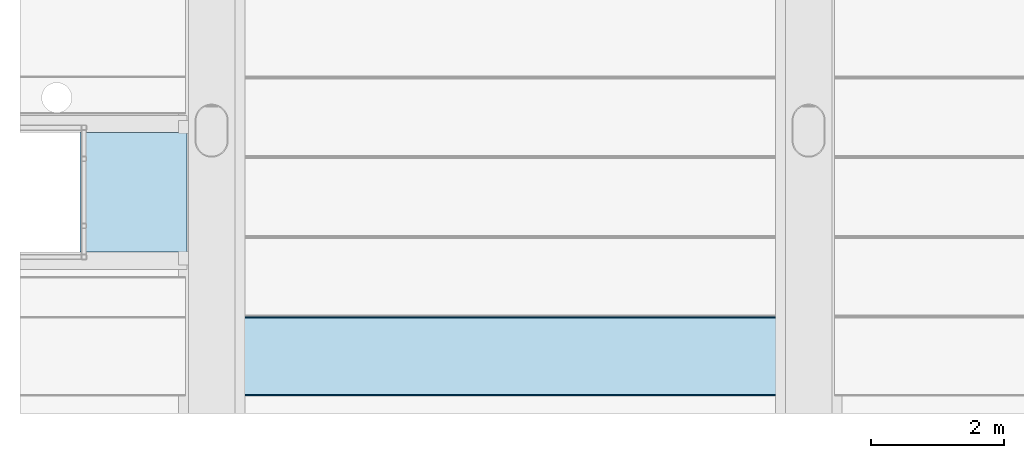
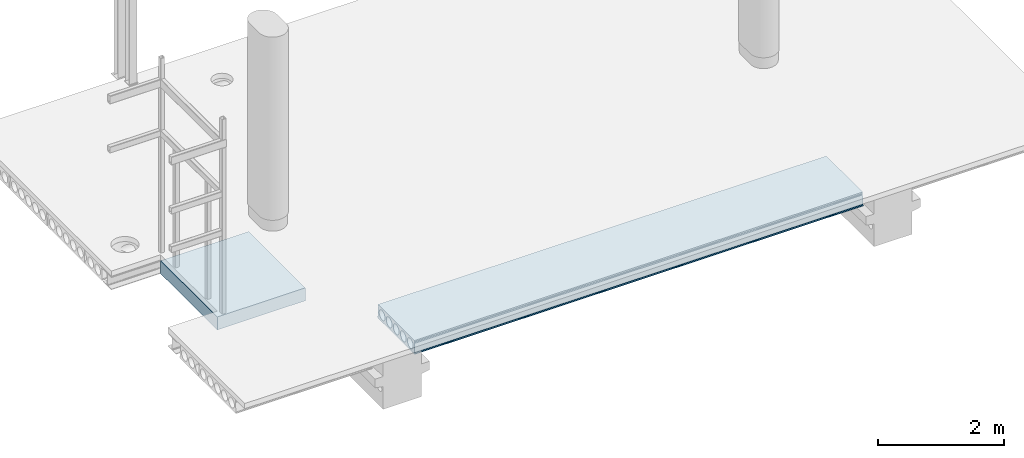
# One storey, part 8 of 34: 2 slabs.
"""IFC2X3 building model written with IfcOpenShell, lengths in millimetres."""

from ifc_helpers import new_model, entity, si_unit, converted_unit, derived_unit, direction, frame, origin_with_axes, place, context, subcontext, project, spatial, polyline, outline, extrude, material, layer, layer_set, layer_usage, type_object, element, save


model = new_model("IFC2X3")

# Units and contexts
model_context = context("Model", 3, precision=0.01, world=frame((0.0, 4.29681676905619e-09, 0.0)), true_north=direction((4.01073788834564e-13, 1.0)))
plan_context = context("Plan", 3, precision=0.01, world=frame((0.0, 4.29681676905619e-09, 0.0)), true_north=direction((4.01073788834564e-13, 1.0)))
body_context = subcontext(model_context, "Body", "Model", "MODEL_VIEW")
ifc_project = project(units=[converted_unit("PLANEANGLEUNIT", "DEGREE", entity("IfcPositiveLengthMeasure", 0.0174532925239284), si_unit("PLANEANGLEUNIT", "RADIAN"), dimensions=[0, 0, 0, 0, 0, 0, 0]), si_unit("AREAUNIT", "SQUARE_METRE"), si_unit("LENGTHUNIT", "METRE", prefix="MILLI"), si_unit("MASSUNIT", "GRAM", prefix="KILO"), si_unit("POWERUNIT", "WATT"), si_unit("PRESSUREUNIT", "PASCAL"), si_unit("FORCEUNIT", "NEWTON", prefix="KILO"), si_unit("ELECTRICVOLTAGEUNIT", "VOLT"), si_unit("ELECTRICCURRENTUNIT", "AMPERE"), si_unit("THERMODYNAMICTEMPERATUREUNIT", "DEGREE_CELSIUS"), si_unit("TIMEUNIT", "SECOND"), si_unit("VOLUMEUNIT", "CUBIC_METRE"), derived_unit("LINEARVELOCITYUNIT", [(si_unit("LENGTHUNIT", "METRE"), 1), (si_unit("TIMEUNIT", "SECOND"), -1)]), derived_unit("VOLUMETRICFLOWRATEUNIT", [(si_unit("VOLUMEUNIT", "CUBIC_METRE"), 1), (si_unit("TIMEUNIT", "SECOND"), -1)]), derived_unit("THERMALTRANSMITTANCEUNIT", [(si_unit("POWERUNIT", "WATT"), 1), (si_unit("THERMODYNAMICTEMPERATUREUNIT", "KELVIN"), -1), (si_unit("AREAUNIT", "SQUARE_METRE"), -1)]), derived_unit("SOUNDPRESSUREUNIT", [(si_unit("PRESSUREUNIT", "PASCAL"), 1)])], contexts=[model_context, plan_context])

# Site, building, storey
site_placement = place(None, frame((0.0, -4.29681676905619e-09, 0.0), z_axis=(0.0, 0.0, 1.0), x_axis=(1.0, 0.0, 0.0)))
site = spatial("IfcSite", under=ifc_project, at=site_placement, Name="Gardermoen", CompositionType="ELEMENT")
building_placement = place(site_placement, frame((0.0, 4.29681676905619e-09, 0.0), z_axis=(0.0, 0.0, 1.0), x_axis=(1.0, 0.0, 0.0)))
building = spatial("IfcBuilding", under=site, at=building_placement, Name="TH", CompositionType="ELEMENT")
storey_placement = place(building_placement, origin_with_axes())
storey = spatial("IfcBuildingStorey", under=building, at=storey_placement, Name="F", CompositionType="ELEMENT", Elevation=0.0)

# Slabs
ifc_material = material(Name="CONCRETE/C45/55")
slab_type_1 = type_object("IfcSlabType", Name="HD265", PredefinedType="NOTDEFINED")
slab_1_placement = place(storey_placement, frame((898389.999766, 476899.989724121, 209897.5), z_axis=(0.0, 0.0, 1.0), x_axis=(1.0, 0.0, 0.0)))
element("IfcSlab", 1, at=slab_1_placement, inside=storey, type_object=slab_type_1, material=ifc_material, Name="HULLDEKKE", ObjectType="HD265", PredefinedType="FLOOR", context=body_context, shape_type="SweptSolid", body=[
    extrude(outline(polyline([(-583.380004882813, -132.5), (-600.0, -122.5), (-600.0, -112.5), (-585.0, -102.5), (-577.5, 77.5), (-570.0, 92.5), (-577.5, 107.5), (-577.5, 132.5), (577.5, 132.5), (577.5, 107.5), (570.0, 92.5), (577.5, 77.5), (585.0, -102.5), (600.0, -112.5), (600.0, -122.5), (583.380004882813, -132.5), (-583.380004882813, -132.5)]), holes=[polyline([(-539.238420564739, 15.2249996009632), (-540.184065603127, 7.63858945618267), (-540.5, 0.0), (-540.184065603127, -7.63858945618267), (-539.238420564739, -15.2249996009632), (-537.669524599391, -22.7074075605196), (-535.488094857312, -30.0347009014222), (-532.709032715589, -37.1568267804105), (-529.351321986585, -44.0251338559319), (-525.437899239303, -50.5927046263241), (-520.995497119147, -56.8146759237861), (-516.05446173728, -62.6485453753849), (-510.648545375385, -68.0544617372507), (-504.814675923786, -72.9954971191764), (-498.592704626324, -77.437899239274), (-492.025133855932, -81.3513219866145), (-485.15682678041, -84.7090327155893), (-478.034700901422, -87.4880948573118), (-470.707407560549, -89.6695245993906), (-463.224999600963, -91.2384205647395), (-455.638589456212, -92.1840656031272), (-448.0, -92.5), (-440.361410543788, -92.1840656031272), (-432.775000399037, -91.2384205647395), (-425.292592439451, -89.6695245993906), (-417.965299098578, -87.4880948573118), (-410.84317321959, -84.7090327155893), (-403.974866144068, -81.3513219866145), (-397.407295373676, -77.437899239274), (-391.185324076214, -72.9954971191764), (-385.351454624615, -68.0544617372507), (-379.94553826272, -62.6485453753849), (-375.004502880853, -56.8146759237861), (-370.562100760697, -50.5927046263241), (-366.648678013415, -44.0251338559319), (-363.290967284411, -37.1568267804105), (-360.511905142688, -30.0347009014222), (-358.330475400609, -22.7074075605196), (-356.761579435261, -15.2249996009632), (-355.815934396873, -7.63858945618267), (-355.5, 0.0), (-355.815934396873, 7.63858945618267), (-356.761579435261, 15.2249996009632), (-358.330475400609, 22.7074075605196), (-360.511905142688, 30.0347009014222), (-363.290967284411, 37.1568267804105), (-366.648678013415, 44.0251338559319), (-370.562100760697, 50.5927046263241), (-375.004502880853, 56.8146759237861), (-379.94553826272, 62.6485453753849), (-385.351454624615, 68.0544617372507), (-391.185324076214, 72.9954971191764), (-397.407295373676, 77.437899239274), (-403.974866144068, 81.3513219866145), (-410.84317321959, 84.7090327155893), (-417.965299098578, 87.4880948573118), (-425.292592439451, 89.6695245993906), (-432.775000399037, 91.2384205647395), (-440.361410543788, 92.1840656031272), (-448.0, 92.5), (-455.638589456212, 92.1840656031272), (-463.224999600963, 91.2384205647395), (-470.707407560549, 89.6695245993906), (-478.034700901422, 87.4880948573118), (-485.15682678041, 84.7090327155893), (-492.025133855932, 81.3513219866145), (-498.592704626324, 77.437899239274), (-504.814675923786, 72.9954971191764), (-510.648545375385, 68.0544617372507), (-516.05446173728, 62.6485453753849), (-520.995497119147, 56.8146759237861), (-525.437899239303, 50.5927046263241), (-529.351321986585, 44.0251338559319), (-532.709032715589, 37.1568267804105), (-535.488094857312, 30.0347009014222), (-537.669524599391, 22.7074075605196), (-539.238420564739, 15.2249996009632)]), polyline([(-315.238420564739, 15.2249996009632), (-316.184065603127, 7.63858945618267), (-316.5, 0.0), (-316.184065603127, -7.63858945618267), (-315.238420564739, -15.2249996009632), (-313.669524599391, -22.7074075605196), (-311.488094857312, -30.0347009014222), (-308.709032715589, -37.1568267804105), (-305.351321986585, -44.0251338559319), (-301.437899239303, -50.5927046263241), (-296.995497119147, -56.8146759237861), (-292.05446173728, -62.6485453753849), (-286.648545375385, -68.0544617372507), (-280.814675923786, -72.9954971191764), (-274.592704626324, -77.437899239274), (-268.025133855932, -81.3513219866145), (-261.15682678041, -84.7090327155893), (-254.034700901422, -87.4880948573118), (-246.707407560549, -89.6695245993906), (-239.224999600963, -91.2384205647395), (-231.638589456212, -92.1840656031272), (-224.0, -92.5), (-216.361410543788, -92.1840656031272), (-208.775000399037, -91.2384205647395), (-201.292592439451, -89.6695245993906), (-193.965299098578, -87.4880948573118), (-186.84317321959, -84.7090327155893), (-179.974866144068, -81.3513219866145), (-173.407295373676, -77.437899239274), (-167.185324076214, -72.9954971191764), (-161.351454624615, -68.0544617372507), (-155.94553826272, -62.6485453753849), (-151.004502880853, -56.8146759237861), (-146.562100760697, -50.5927046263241), (-142.648678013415, -44.0251338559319), (-139.290967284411, -37.1568267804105), (-136.511905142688, -30.0347009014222), (-134.330475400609, -22.7074075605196), (-132.761579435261, -15.2249996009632), (-131.815934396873, -7.63858945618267), (-131.5, 0.0), (-131.815934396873, 7.63858945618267), (-132.761579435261, 15.2249996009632), (-134.330475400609, 22.7074075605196), (-136.511905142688, 30.0347009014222), (-139.290967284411, 37.1568267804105), (-142.648678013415, 44.0251338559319), (-146.562100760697, 50.5927046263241), (-151.004502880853, 56.8146759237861), (-155.94553826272, 62.6485453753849), (-161.351454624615, 68.0544617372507), (-167.185324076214, 72.9954971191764), (-173.407295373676, 77.437899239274), (-179.974866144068, 81.3513219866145), (-186.84317321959, 84.7090327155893), (-193.965299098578, 87.4880948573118), (-201.292592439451, 89.6695245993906), (-208.775000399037, 91.2384205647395), (-216.361410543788, 92.1840656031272), (-224.0, 92.5), (-231.638589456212, 92.1840656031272), (-239.224999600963, 91.2384205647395), (-246.707407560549, 89.6695245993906), (-254.034700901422, 87.4880948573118), (-261.15682678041, 84.7090327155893), (-268.025133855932, 81.3513219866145), (-274.592704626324, 77.437899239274), (-280.814675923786, 72.9954971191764), (-286.648545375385, 68.0544617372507), (-292.05446173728, 62.6485453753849), (-296.995497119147, 56.8146759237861), (-301.437899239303, 50.5927046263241), (-305.351321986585, 44.0251338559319), (-308.709032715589, 37.1568267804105), (-311.488094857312, 30.0347009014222), (-313.669524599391, 22.7074075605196), (-315.238420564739, 15.2249996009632)]), polyline([(-91.2384205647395, 15.2249996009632), (-92.1840656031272, 7.63858945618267), (-92.5, 0.0), (-92.1840656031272, -7.63858945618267), (-91.2384205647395, -15.2249996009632), (-89.6695245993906, -22.7074075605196), (-87.4880948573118, -30.0347009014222), (-84.7090327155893, -37.1568267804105), (-81.3513219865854, -44.0251338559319), (-77.4378992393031, -50.5927046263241), (-72.9954971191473, -56.8146759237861), (-68.0544617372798, -62.6485453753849), (-62.6485453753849, -68.0544617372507), (-56.8146759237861, -72.9954971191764), (-50.5927046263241, -77.437899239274), (-44.0251338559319, -81.3513219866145), (-37.1568267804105, -84.7090327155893), (-30.0347009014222, -87.4880948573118), (-22.7074075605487, -89.6695245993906), (-15.2249996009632, -91.2384205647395), (-7.63858945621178, -92.1840656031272), (0.0, -92.5), (7.63858945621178, -92.1840656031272), (15.2249996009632, -91.2384205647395), (22.7074075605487, -89.6695245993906), (30.0347009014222, -87.4880948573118), (37.1568267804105, -84.7090327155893), (44.0251338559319, -81.3513219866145), (50.5927046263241, -77.437899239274), (56.8146759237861, -72.9954971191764), (62.6485453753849, -68.0544617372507), (68.0544617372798, -62.6485453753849), (72.9954971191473, -56.8146759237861), (77.4378992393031, -50.5927046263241), (81.3513219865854, -44.0251338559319), (84.7090327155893, -37.1568267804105), (87.4880948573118, -30.0347009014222), (89.6695245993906, -22.7074075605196), (91.2384205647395, -15.2249996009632), (92.1840656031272, -7.63858945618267), (92.5, 0.0), (92.1840656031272, 7.63858945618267), (91.2384205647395, 15.2249996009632), (89.6695245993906, 22.7074075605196), (87.4880948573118, 30.0347009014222), (84.7090327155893, 37.1568267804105), (81.3513219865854, 44.0251338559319), (77.4378992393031, 50.5927046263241), (72.9954971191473, 56.8146759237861), (68.0544617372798, 62.6485453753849), (62.6485453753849, 68.0544617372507), (56.8146759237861, 72.9954971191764), (50.5927046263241, 77.437899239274), (44.0251338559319, 81.3513219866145), (37.1568267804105, 84.7090327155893), (30.0347009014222, 87.4880948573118), (22.7074075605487, 89.6695245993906), (15.2249996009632, 91.2384205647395), (7.63858945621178, 92.1840656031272), (0.0, 92.5), (-7.63858945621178, 92.1840656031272), (-15.2249996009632, 91.2384205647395), (-22.7074075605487, 89.6695245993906), (-30.0347009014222, 87.4880948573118), (-37.1568267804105, 84.7090327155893), (-44.0251338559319, 81.3513219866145), (-50.5927046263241, 77.437899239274), (-56.8146759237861, 72.9954971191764), (-62.6485453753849, 68.0544617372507), (-68.0544617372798, 62.6485453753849), (-72.9954971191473, 56.8146759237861), (-77.4378992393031, 50.5927046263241), (-81.3513219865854, 44.0251338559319), (-84.7090327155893, 37.1568267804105), (-87.4880948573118, 30.0347009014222), (-89.6695245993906, 22.7074075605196), (-91.2384205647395, 15.2249996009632)]), polyline([(132.761579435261, 15.2249996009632), (131.815934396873, 7.63858945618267), (131.5, 0.0), (131.815934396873, -7.63858945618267), (132.761579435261, -15.2249996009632), (134.330475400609, -22.7074075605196), (136.511905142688, -30.0347009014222), (139.290967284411, -37.1568267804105), (142.648678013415, -44.0251338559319), (146.562100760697, -50.5927046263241), (151.004502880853, -56.8146759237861), (155.94553826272, -62.6485453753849), (161.351454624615, -68.0544617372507), (167.185324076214, -72.9954971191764), (173.407295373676, -77.437899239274), (179.974866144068, -81.3513219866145), (186.84317321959, -84.7090327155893), (193.965299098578, -87.4880948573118), (201.292592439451, -89.6695245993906), (208.775000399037, -91.2384205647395), (216.361410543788, -92.1840656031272), (224.0, -92.5), (231.638589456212, -92.1840656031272), (239.224999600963, -91.2384205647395), (246.707407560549, -89.6695245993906), (254.034700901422, -87.4880948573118), (261.15682678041, -84.7090327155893), (268.025133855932, -81.3513219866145), (274.592704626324, -77.437899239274), (280.814675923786, -72.9954971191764), (286.648545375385, -68.0544617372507), (292.05446173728, -62.6485453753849), (296.995497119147, -56.8146759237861), (301.437899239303, -50.5927046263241), (305.351321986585, -44.0251338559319), (308.709032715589, -37.1568267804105), (311.488094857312, -30.0347009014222), (313.669524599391, -22.7074075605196), (315.238420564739, -15.2249996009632), (316.184065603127, -7.63858945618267), (316.5, 0.0), (316.184065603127, 7.63858945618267), (315.238420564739, 15.2249996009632), (313.669524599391, 22.7074075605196), (311.488094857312, 30.0347009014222), (308.709032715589, 37.1568267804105), (305.351321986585, 44.0251338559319), (301.437899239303, 50.5927046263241), (296.995497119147, 56.8146759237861), (292.05446173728, 62.6485453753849), (286.648545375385, 68.0544617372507), (280.814675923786, 72.9954971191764), (274.592704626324, 77.437899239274), (268.025133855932, 81.3513219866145), (261.15682678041, 84.7090327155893), (254.034700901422, 87.4880948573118), (246.707407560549, 89.6695245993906), (239.224999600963, 91.2384205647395), (231.638589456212, 92.1840656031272), (224.0, 92.5), (216.361410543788, 92.1840656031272), (208.775000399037, 91.2384205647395), (201.292592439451, 89.6695245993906), (193.965299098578, 87.4880948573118), (186.84317321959, 84.7090327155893), (179.974866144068, 81.3513219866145), (173.407295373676, 77.437899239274), (167.185324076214, 72.9954971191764), (161.351454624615, 68.0544617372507), (155.94553826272, 62.6485453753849), (151.004502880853, 56.8146759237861), (146.562100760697, 50.5927046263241), (142.648678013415, 44.0251338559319), (139.290967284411, 37.1568267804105), (136.511905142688, 30.0347009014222), (134.330475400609, 22.7074075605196), (132.761579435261, 15.2249996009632)]), polyline([(356.761579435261, 15.2249996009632), (355.815934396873, 7.63858945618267), (355.5, 0.0), (355.815934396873, -7.63858945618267), (356.761579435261, -15.2249996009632), (358.330475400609, -22.7074075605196), (360.511905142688, -30.0347009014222), (363.290967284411, -37.1568267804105), (366.648678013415, -44.0251338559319), (370.562100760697, -50.5927046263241), (375.004502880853, -56.8146759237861), (379.94553826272, -62.6485453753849), (385.351454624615, -68.0544617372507), (391.185324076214, -72.9954971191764), (397.407295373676, -77.437899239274), (403.974866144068, -81.3513219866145), (410.84317321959, -84.7090327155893), (417.965299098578, -87.4880948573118), (425.292592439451, -89.6695245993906), (432.775000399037, -91.2384205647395), (440.361410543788, -92.1840656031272), (448.0, -92.5), (455.638589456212, -92.1840656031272), (463.224999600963, -91.2384205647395), (470.707407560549, -89.6695245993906), (478.034700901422, -87.4880948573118), (485.15682678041, -84.7090327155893), (492.025133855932, -81.3513219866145), (498.592704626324, -77.437899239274), (504.814675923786, -72.9954971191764), (510.648545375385, -68.0544617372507), (516.05446173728, -62.6485453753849), (520.995497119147, -56.8146759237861), (525.437899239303, -50.5927046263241), (529.351321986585, -44.0251338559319), (532.709032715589, -37.1568267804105), (535.488094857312, -30.0347009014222), (537.669524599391, -22.7074075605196), (539.238420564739, -15.2249996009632), (540.184065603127, -7.63858945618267), (540.5, 0.0), (540.184065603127, 7.63858945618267), (539.238420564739, 15.2249996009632), (537.669524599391, 22.7074075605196), (535.488094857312, 30.0347009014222), (532.709032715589, 37.1568267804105), (529.351321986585, 44.0251338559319), (525.437899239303, 50.5927046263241), (520.995497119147, 56.8146759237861), (516.05446173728, 62.6485453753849), (510.648545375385, 68.0544617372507), (504.814675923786, 72.9954971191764), (498.592704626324, 77.437899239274), (492.025133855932, 81.3513219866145), (485.15682678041, 84.7090327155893), (478.034700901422, 87.4880948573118), (470.707407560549, 89.6695245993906), (463.224999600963, 91.2384205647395), (455.638589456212, 92.1840656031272), (448.0, 92.5), (440.361410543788, 92.1840656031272), (432.775000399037, 91.2384205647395), (425.292592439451, 89.6695245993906), (417.965299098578, 87.4880948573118), (410.84317321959, 84.7090327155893), (403.974866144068, 81.3513219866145), (397.407295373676, 77.437899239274), (391.185324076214, 72.9954971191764), (385.351454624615, 68.0544617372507), (379.94553826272, 62.6485453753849), (375.004502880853, 56.8146759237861), (370.562100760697, 50.5927046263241), (366.648678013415, 44.0251338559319), (363.290967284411, 37.1568267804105), (360.511905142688, 30.0347009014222), (358.330475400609, 22.7074075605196), (356.761579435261, 15.2249996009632)])]), frame((8220.0, 0.0, 0.0), z_axis=(-1.0, 0.0, 6.61744490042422e-24), x_axis=(0.0, -1.0, 0.0)), (0.0, 0.0, 1.0), 8220.0),
])
ifc_layer = layer(ifc_material, 250.0)
ifc_layer_set = layer_set([ifc_layer], Name="Floor: Insitu CONCRETE/C45/55")
ifc_layer_usage = layer_usage(ifc_layer_set, "AXIS3", "POSITIVE", -125.0)
slab_type_2 = type_object("IfcSlabType", Name="250*1615", PredefinedType="NOTDEFINED")
slab_2_placement = place(storey_placement, frame((896115.02, 480270.0, 209890.0), z_axis=(0.0, 0.0, -1.0), x_axis=(1.0, 0.0, 0.0)))
element("IfcSlab", 2, at=slab_2_placement, inside=storey, type_object=slab_type_2, material=ifc_layer_usage, Name="PREFABDEKKE", ObjectType="250*1615", PredefinedType="FLOOR", context=body_context, shape_type="SweptSolid", body=[
    extrude(outline(polyline([(0.0, 0.0), (1515.0, 0.0), (1515.0, 1800.0), (0.0, 1800.0), (-100.019996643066, 1799.99877929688), (-100.0, 1300.0), (-100.0, 500.0), (-100.019996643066, -0.00118243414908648), (0.0, 0.0)])), frame((0.0, 0.0, -125.0), z_axis=(0.0, 0.0, 1.0), x_axis=(1.0, 0.0, 0.0)), (0.0, 0.0, 1.0), 250.0),
])

save(model, "model.ifc")
